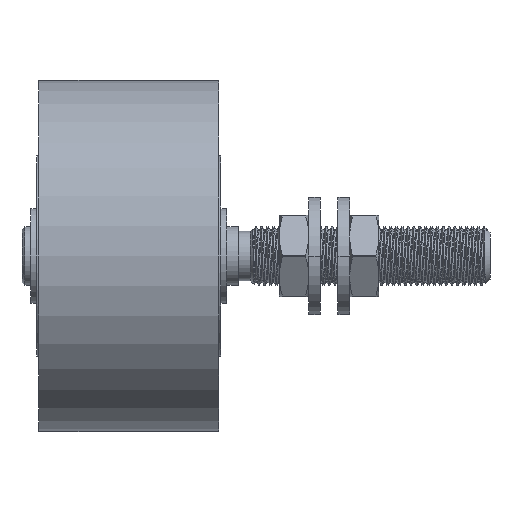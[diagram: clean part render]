
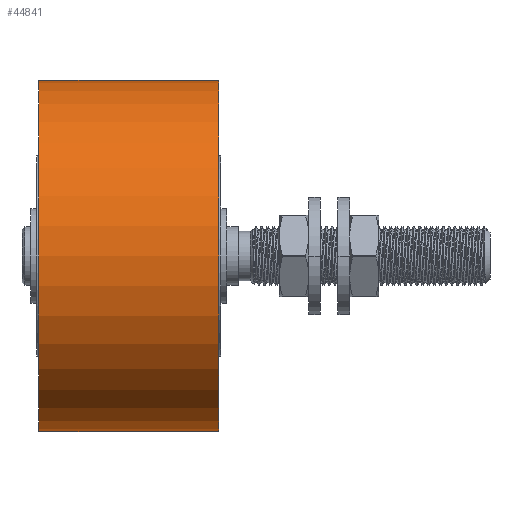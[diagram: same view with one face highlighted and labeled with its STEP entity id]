
A CAD part, left-side view. The second image highlights one B-rep face of the part: STEP entity #44841.
In plain terms, the highlighted cylindrical face has radius 30 mm (diameter 60 mm), a partial arc.
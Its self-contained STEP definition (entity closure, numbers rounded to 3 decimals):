
#44666 = CONICAL_SURFACE('',#44667,23.55,1.484);
#44667 = AXIS2_PLACEMENT_3D('',#44668,#44669,#44670);
#44668 = CARTESIAN_POINT('',(0.,46.936,0.));
#44669 = DIRECTION('',(0.,-1.,0.));
#44670 = DIRECTION('',(0.,0.,1.));
#44736 = VERTEX_POINT('',#44737);
#44737 = CARTESIAN_POINT('',(0.,46.371,-30.));
#44760 = VERTEX_POINT('',#44761);
#44761 = CARTESIAN_POINT('',(0.,46.371,30.));
#44797 = CYLINDRICAL_SURFACE('',#44798,30.);
#44798 = AXIS2_PLACEMENT_3D('',#44799,#44800,#44801);
#44799 = CARTESIAN_POINT('',(0.,-4.,0.));
#44800 = DIRECTION('',(0.,1.,0.));
#44801 = DIRECTION('',(0.,0.,-1.));
#44813 = EDGE_CURVE('',#44736,#44760,#44814,.T.);
#44814 = SURFACE_CURVE('',#44815,(#44820,#44827),.PCURVE_S1.);
#44815 = CIRCLE('',#44816,30.);
#44816 = AXIS2_PLACEMENT_3D('',#44817,#44818,#44819);
#44817 = CARTESIAN_POINT('',(0.,46.371,0.));
#44818 = DIRECTION('',(0.,1.,0.));
#44819 = DIRECTION('',(0.,0.,-1.));
#44820 = PCURVE('',#44666,#44821);
#44821 = DEFINITIONAL_REPRESENTATION('',(#44822),#44826);
#44822 = LINE('',#44823,#44824);
#44823 = CARTESIAN_POINT('',(3.142,0.564));
#44824 = VECTOR('',#44825,1.);
#44825 = DIRECTION('',(-1.,0.));
#44826 = ( GEOMETRIC_REPRESENTATION_CONTEXT(2) 
PARAMETRIC_REPRESENTATION_CONTEXT() REPRESENTATION_CONTEXT('2D SPACE',''
  ) );
#44827 = PCURVE('',#44828,#44833);
#44828 = CYLINDRICAL_SURFACE('',#44829,30.);
#44829 = AXIS2_PLACEMENT_3D('',#44830,#44831,#44832);
#44830 = CARTESIAN_POINT('',(0.,-4.,0.));
#44831 = DIRECTION('',(0.,1.,0.));
#44832 = DIRECTION('',(0.,0.,-1.));
#44833 = DEFINITIONAL_REPRESENTATION('',(#44834),#44838);
#44834 = LINE('',#44835,#44836);
#44835 = CARTESIAN_POINT('',(0.,50.371));
#44836 = VECTOR('',#44837,1.);
#44837 = DIRECTION('',(1.,0.));
#44838 = ( GEOMETRIC_REPRESENTATION_CONTEXT(2) 
PARAMETRIC_REPRESENTATION_CONTEXT() REPRESENTATION_CONTEXT('2D SPACE',''
  ) );
#44841 = ADVANCED_FACE('',(#44842),#44828,.T.);
#44842 = FACE_BOUND('',#44843,.T.);
#44843 = EDGE_LOOP('',(#44844,#44845,#44868,#44897));
#44844 = ORIENTED_EDGE('',*,*,#44813,.T.);
#44845 = ORIENTED_EDGE('',*,*,#44846,.T.);
#44846 = EDGE_CURVE('',#44760,#44847,#44849,.T.);
#44847 = VERTEX_POINT('',#44848);
#44848 = CARTESIAN_POINT('',(0.,77.129,30.));
#44849 = SURFACE_CURVE('',#44850,(#44854,#44861),.PCURVE_S1.);
#44850 = LINE('',#44851,#44852);
#44851 = CARTESIAN_POINT('',(0.,46.371,30.));
#44852 = VECTOR('',#44853,1.);
#44853 = DIRECTION('',(0.,1.,0.));
#44854 = PCURVE('',#44828,#44855);
#44855 = DEFINITIONAL_REPRESENTATION('',(#44856),#44860);
#44856 = LINE('',#44857,#44858);
#44857 = CARTESIAN_POINT('',(3.142,50.371));
#44858 = VECTOR('',#44859,1.);
#44859 = DIRECTION('',(0.,1.));
#44860 = ( GEOMETRIC_REPRESENTATION_CONTEXT(2) 
PARAMETRIC_REPRESENTATION_CONTEXT() REPRESENTATION_CONTEXT('2D SPACE',''
  ) );
#44861 = PCURVE('',#44797,#44862);
#44862 = DEFINITIONAL_REPRESENTATION('',(#44863),#44867);
#44863 = LINE('',#44864,#44865);
#44864 = CARTESIAN_POINT('',(3.142,50.371));
#44865 = VECTOR('',#44866,1.);
#44866 = DIRECTION('',(0.,1.));
#44867 = ( GEOMETRIC_REPRESENTATION_CONTEXT(2) 
PARAMETRIC_REPRESENTATION_CONTEXT() REPRESENTATION_CONTEXT('2D SPACE',''
  ) );
#44868 = ORIENTED_EDGE('',*,*,#44869,.F.);
#44869 = EDGE_CURVE('',#44870,#44847,#44872,.T.);
#44870 = VERTEX_POINT('',#44871);
#44871 = CARTESIAN_POINT('',(0.,77.129,-30.));
#44872 = SURFACE_CURVE('',#44873,(#44878,#44885),.PCURVE_S1.);
#44873 = CIRCLE('',#44874,30.);
#44874 = AXIS2_PLACEMENT_3D('',#44875,#44876,#44877);
#44875 = CARTESIAN_POINT('',(0.,77.129,0.));
#44876 = DIRECTION('',(0.,1.,0.));
#44877 = DIRECTION('',(0.,0.,-1.));
#44878 = PCURVE('',#44828,#44879);
#44879 = DEFINITIONAL_REPRESENTATION('',(#44880),#44884);
#44880 = LINE('',#44881,#44882);
#44881 = CARTESIAN_POINT('',(0.,81.129));
#44882 = VECTOR('',#44883,1.);
#44883 = DIRECTION('',(1.,0.));
#44884 = ( GEOMETRIC_REPRESENTATION_CONTEXT(2) 
PARAMETRIC_REPRESENTATION_CONTEXT() REPRESENTATION_CONTEXT('2D SPACE',''
  ) );
#44885 = PCURVE('',#44886,#44891);
#44886 = CONICAL_SURFACE('',#44887,23.55,1.484);
#44887 = AXIS2_PLACEMENT_3D('',#44888,#44889,#44890);
#44888 = CARTESIAN_POINT('',(0.,76.564,0.));
#44889 = DIRECTION('',(0.,1.,0.));
#44890 = DIRECTION('',(0.,0.,-1.));
#44891 = DEFINITIONAL_REPRESENTATION('',(#44892),#44896);
#44892 = LINE('',#44893,#44894);
#44893 = CARTESIAN_POINT('',(0.,0.564));
#44894 = VECTOR('',#44895,1.);
#44895 = DIRECTION('',(1.,0.));
#44896 = ( GEOMETRIC_REPRESENTATION_CONTEXT(2) 
PARAMETRIC_REPRESENTATION_CONTEXT() REPRESENTATION_CONTEXT('2D SPACE',''
  ) );
#44897 = ORIENTED_EDGE('',*,*,#44898,.F.);
#44898 = EDGE_CURVE('',#44736,#44870,#44899,.T.);
#44899 = SURFACE_CURVE('',#44900,(#44904,#44911),.PCURVE_S1.);
#44900 = LINE('',#44901,#44902);
#44901 = CARTESIAN_POINT('',(0.,46.371,-30.));
#44902 = VECTOR('',#44903,1.);
#44903 = DIRECTION('',(0.,1.,0.));
#44904 = PCURVE('',#44828,#44905);
#44905 = DEFINITIONAL_REPRESENTATION('',(#44906),#44910);
#44906 = LINE('',#44907,#44908);
#44907 = CARTESIAN_POINT('',(0.,50.371));
#44908 = VECTOR('',#44909,1.);
#44909 = DIRECTION('',(0.,1.));
#44910 = ( GEOMETRIC_REPRESENTATION_CONTEXT(2) 
PARAMETRIC_REPRESENTATION_CONTEXT() REPRESENTATION_CONTEXT('2D SPACE',''
  ) );
#44911 = PCURVE('',#44797,#44912);
#44912 = DEFINITIONAL_REPRESENTATION('',(#44913),#44917);
#44913 = LINE('',#44914,#44915);
#44914 = CARTESIAN_POINT('',(6.283,50.371));
#44915 = VECTOR('',#44916,1.);
#44916 = DIRECTION('',(0.,1.));
#44917 = ( GEOMETRIC_REPRESENTATION_CONTEXT(2) 
PARAMETRIC_REPRESENTATION_CONTEXT() REPRESENTATION_CONTEXT('2D SPACE',''
  ) );
